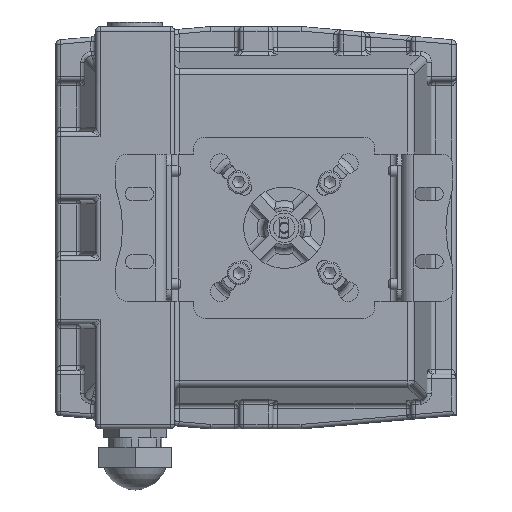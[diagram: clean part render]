
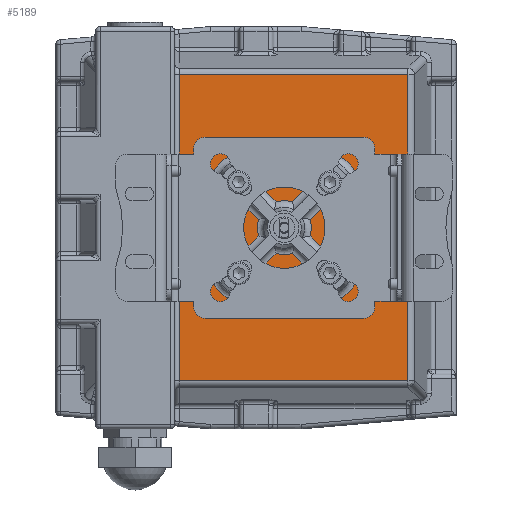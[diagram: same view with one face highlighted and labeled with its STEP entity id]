
A CAD part, front view. The second image highlights one B-rep face of the part: STEP entity #5189.
In plain terms, the highlighted planar face has unit normal (0, -1, 0).
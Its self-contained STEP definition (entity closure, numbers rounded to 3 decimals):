
#5189=ADVANCED_FACE('',(#18060,#18062),#18064,.F.);
#18060=FACE_BOUND('',#18061,.T.);
#18061=EDGE_LOOP('',(#26364,#26365,#26366,#26367));
#18062=FACE_BOUND('',#18063,.T.);
#18063=EDGE_LOOP('',(#26368,#26369,#26370,#26371,#26372,#26373,#26374,#26375,#26376,
#26377,#26378,#26379,#26380,#26381,#26382,#26383));
#18064=PLANE('',#18065);
#18065=AXIS2_PLACEMENT_3D('',#18066,#18067,#18068);
#18066=CARTESIAN_POINT('',(0.,8.,0.));
#18067=DIRECTION('',(0.,1.,0.));
#18068=DIRECTION('',(1.,0.,0.));
#26364=ORIENTED_EDGE('',*,*,#30543,.F.);
#26365=ORIENTED_EDGE('',*,*,#30680,.F.);
#26366=ORIENTED_EDGE('',*,*,#30677,.F.);
#26367=ORIENTED_EDGE('',*,*,#30674,.F.);
#26368=ORIENTED_EDGE('',*,*,#30681,.F.);
#26369=ORIENTED_EDGE('',*,*,#30682,.T.);
#26370=ORIENTED_EDGE('',*,*,#30683,.F.);
#26371=ORIENTED_EDGE('',*,*,#30684,.T.);
#26372=ORIENTED_EDGE('',*,*,#30685,.F.);
#26373=ORIENTED_EDGE('',*,*,#30686,.T.);
#26374=ORIENTED_EDGE('',*,*,#30687,.F.);
#26375=ORIENTED_EDGE('',*,*,#30688,.T.);
#26376=ORIENTED_EDGE('',*,*,#30689,.F.);
#26377=ORIENTED_EDGE('',*,*,#30690,.T.);
#26378=ORIENTED_EDGE('',*,*,#30691,.F.);
#26379=ORIENTED_EDGE('',*,*,#30692,.T.);
#26380=ORIENTED_EDGE('',*,*,#30693,.F.);
#26381=ORIENTED_EDGE('',*,*,#30694,.T.);
#26382=ORIENTED_EDGE('',*,*,#30695,.F.);
#26383=ORIENTED_EDGE('',*,*,#30696,.T.);
#30543=EDGE_CURVE('',#33878,#33881,#33882,.F.);
#30674=EDGE_CURVE('',#33881,#34066,#34067,.T.);
#30677=EDGE_CURVE('',#34066,#34070,#34071,.T.);
#30680=EDGE_CURVE('',#34070,#33878,#34074,.T.);
#30681=EDGE_CURVE('',#34075,#34076,#34077,.F.);
#30682=EDGE_CURVE('',#34075,#34078,#34079,.F.);
#30683=EDGE_CURVE('',#34080,#34078,#34081,.F.);
#30684=EDGE_CURVE('',#34080,#34082,#34083,.F.);
#30685=EDGE_CURVE('',#34084,#34082,#34085,.F.);
#30686=EDGE_CURVE('',#34084,#34086,#34087,.F.);
#30687=EDGE_CURVE('',#34088,#34086,#34089,.F.);
#30688=EDGE_CURVE('',#34088,#34090,#34091,.F.);
#30689=EDGE_CURVE('',#34092,#34090,#34093,.F.);
#30690=EDGE_CURVE('',#34092,#34094,#34095,.F.);
#30691=EDGE_CURVE('',#34096,#34094,#34097,.F.);
#30692=EDGE_CURVE('',#34096,#34098,#34099,.F.);
#30693=EDGE_CURVE('',#34100,#34098,#34101,.F.);
#30694=EDGE_CURVE('',#34100,#34102,#34103,.F.);
#30695=EDGE_CURVE('',#34104,#34102,#34105,.F.);
#30696=EDGE_CURVE('',#34104,#34076,#34106,.F.);
#33878=VERTEX_POINT('',#42388);
#33881=VERTEX_POINT('',#42397);
#33882=LINE('',#42398,#42399);
#34066=VERTEX_POINT('',#43430);
#34067=LINE('',#43431,#43432);
#34070=VERTEX_POINT('',#43442);
#34071=LINE('',#43443,#43444);
#34074=LINE('',#43454,#43455);
#34075=VERTEX_POINT('',#43457);
#34076=VERTEX_POINT('',#43458);
#34077=LINE('',#43459,#43460);
#34078=VERTEX_POINT('',#43462);
#34079=CIRCLE('',#43463,11.946);
#34080=VERTEX_POINT('',#43467);
#34081=LINE('',#43468,#43469);
#34082=VERTEX_POINT('',#43471);
#34083=CIRCLE('',#43472,11.946);
#34084=VERTEX_POINT('',#43476);
#34085=LINE('',#43477,#43478);
#34086=VERTEX_POINT('',#43480);
#34087=CIRCLE('',#43481,11.946);
#34088=VERTEX_POINT('',#43485);
#34089=LINE('',#43486,#43487);
#34090=VERTEX_POINT('',#43489);
#34091=CIRCLE('',#43490,11.946);
#34092=VERTEX_POINT('',#43494);
#34093=LINE('',#43495,#43496);
#34094=VERTEX_POINT('',#43498);
#34095=CIRCLE('',#43499,11.946);
#34096=VERTEX_POINT('',#43503);
#34097=LINE('',#43504,#43505);
#34098=VERTEX_POINT('',#43507);
#34099=CIRCLE('',#43508,11.946);
#34100=VERTEX_POINT('',#43512);
#34101=LINE('',#43513,#43514);
#34102=VERTEX_POINT('',#43516);
#34103=CIRCLE('',#43517,11.946);
#34104=VERTEX_POINT('',#43521);
#34105=LINE('',#43522,#43523);
#34106=CIRCLE('',#43525,11.946);
#42388=CARTESIAN_POINT('',(-46.5,8.,-67.666));
#42397=CARTESIAN_POINT('',(-46.5,8.,67.666));
#42398=CARTESIAN_POINT('',(-46.5,8.,67.666));
#42399=VECTOR('',#42400,1.);
#42400=DIRECTION('',(0.,0.,-1.));
#43430=CARTESIAN_POINT('',(54.666,8.,67.666));
#43431=CARTESIAN_POINT('',(-46.5,8.,67.666));
#43432=VECTOR('',#43433,1.);
#43433=DIRECTION('',(1.,0.,0.));
#43442=CARTESIAN_POINT('',(54.666,8.,-67.666));
#43443=CARTESIAN_POINT('',(54.666,8.,67.666));
#43444=VECTOR('',#43445,1.);
#43445=DIRECTION('',(0.,0.,-1.));
#43454=CARTESIAN_POINT('',(54.666,8.,-67.666));
#43455=VECTOR('',#43456,1.);
#43456=DIRECTION('',(-1.,0.,0.));
#43457=CARTESIAN_POINT('',(-3.609,8.,11.387));
#43458=CARTESIAN_POINT('',(-8.765,8.,16.543));
#43459=CARTESIAN_POINT('',(-8.765,8.,16.543));
#43460=VECTOR('',#43461,1.);
#43461=DIRECTION('',(0.707,0.,-0.707));
#43462=CARTESIAN_POINT('',(3.609,8.,11.387));
#43463=AXIS2_PLACEMENT_3D('',#43464,#43465,#43466);
#43464=CARTESIAN_POINT('',(0.,8.,0.));
#43465=DIRECTION('',(0.,-1.,0.));
#43466=DIRECTION('',(0.302,0.,0.953));
#43467=CARTESIAN_POINT('',(8.765,8.,16.543));
#43468=CARTESIAN_POINT('',(3.609,8.,11.387));
#43469=VECTOR('',#43470,1.);
#43470=DIRECTION('',(0.707,0.,0.707));
#43471=CARTESIAN_POINT('',(16.543,8.,8.765));
#43472=AXIS2_PLACEMENT_3D('',#43473,#43474,#43475);
#43473=CARTESIAN_POINT('',(20.153,8.,20.153));
#43474=DIRECTION('',(0.,-1.,0.));
#43475=DIRECTION('',(-0.302,0.,-0.953));
#43476=CARTESIAN_POINT('',(11.387,8.,3.609));
#43477=CARTESIAN_POINT('',(16.543,8.,8.765));
#43478=VECTOR('',#43479,1.);
#43479=DIRECTION('',(-0.707,0.,-0.707));
#43480=CARTESIAN_POINT('',(11.387,8.,-3.609));
#43481=AXIS2_PLACEMENT_3D('',#43482,#43483,#43484);
#43482=CARTESIAN_POINT('',(0.,8.,0.));
#43483=DIRECTION('',(0.,-1.,0.));
#43484=DIRECTION('',(0.953,0.,-0.302));
#43485=CARTESIAN_POINT('',(16.543,8.,-8.765));
#43486=CARTESIAN_POINT('',(11.387,8.,-3.609));
#43487=VECTOR('',#43488,1.);
#43488=DIRECTION('',(0.707,0.,-0.707));
#43489=CARTESIAN_POINT('',(8.765,8.,-16.543));
#43490=AXIS2_PLACEMENT_3D('',#43491,#43492,#43493);
#43491=CARTESIAN_POINT('',(20.153,8.,-20.153));
#43492=DIRECTION('',(0.,-1.,0.));
#43493=DIRECTION('',(-0.953,0.,0.302));
#43494=CARTESIAN_POINT('',(3.609,8.,-11.387));
#43495=CARTESIAN_POINT('',(8.765,8.,-16.543));
#43496=VECTOR('',#43497,1.);
#43497=DIRECTION('',(-0.707,0.,0.707));
#43498=CARTESIAN_POINT('',(-3.609,8.,-11.387));
#43499=AXIS2_PLACEMENT_3D('',#43500,#43501,#43502);
#43500=CARTESIAN_POINT('',(0.,8.,0.));
#43501=DIRECTION('',(0.,-1.,0.));
#43502=DIRECTION('',(-0.302,0.,-0.953));
#43503=CARTESIAN_POINT('',(-8.765,8.,-16.543));
#43504=CARTESIAN_POINT('',(-3.609,8.,-11.387));
#43505=VECTOR('',#43506,1.);
#43506=DIRECTION('',(-0.707,0.,-0.707));
#43507=CARTESIAN_POINT('',(-16.543,8.,-8.765));
#43508=AXIS2_PLACEMENT_3D('',#43509,#43510,#43511);
#43509=CARTESIAN_POINT('',(-20.153,8.,-20.153));
#43510=DIRECTION('',(0.,-1.,0.));
#43511=DIRECTION('',(0.302,0.,0.953));
#43512=CARTESIAN_POINT('',(-11.387,8.,-3.609));
#43513=CARTESIAN_POINT('',(-16.543,8.,-8.765));
#43514=VECTOR('',#43515,1.);
#43515=DIRECTION('',(0.707,0.,0.707));
#43516=CARTESIAN_POINT('',(-11.387,8.,3.609));
#43517=AXIS2_PLACEMENT_3D('',#43518,#43519,#43520);
#43518=CARTESIAN_POINT('',(0.,8.,0.));
#43519=DIRECTION('',(0.,-1.,0.));
#43520=DIRECTION('',(-0.953,0.,0.302));
#43521=CARTESIAN_POINT('',(-16.543,8.,8.765));
#43522=CARTESIAN_POINT('',(-11.387,8.,3.609));
#43523=VECTOR('',#43524,1.);
#43524=DIRECTION('',(-0.707,0.,0.707));
#43525=AXIS2_PLACEMENT_3D('',#43526,#43527,#43528);
#43526=CARTESIAN_POINT('',(-20.153,8.,20.153));
#43527=DIRECTION('',(0.,-1.,0.));
#43528=DIRECTION('',(0.953,0.,-0.302));
